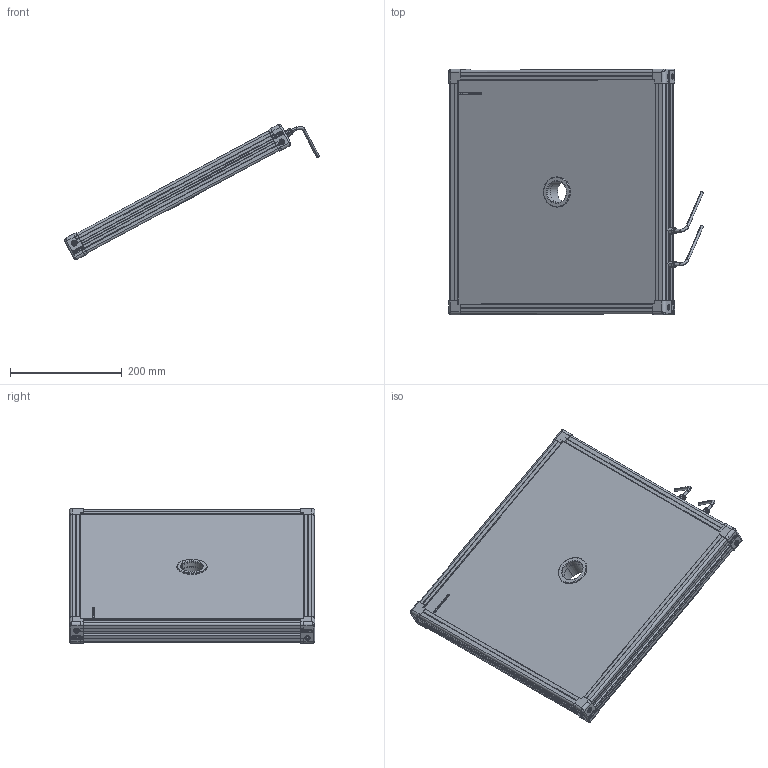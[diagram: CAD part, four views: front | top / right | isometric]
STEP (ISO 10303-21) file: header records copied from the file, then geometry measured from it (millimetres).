
FILE_DESCRIPTION (( 'STEP AP214' ), '1' );
FILE_NAME ('EFFI-FD-400-400-ZZZ-2M12.STEP', '2021-06-21T12:17:04', ( '' ), ( '' ), 'SwSTEP 2.0', 'SolidWorks 2021', '' );
FILE_SCHEMA (( 'AUTOMOTIVE_DESIGN' ));
Length unit declared in the file: millimetre
Products named in the file (13): profile Y_PERCE; 000629; 000590; EFFI-FD-400-400-ZZZ-2M12; assemblage Ø39; profile X_PERCE; 001036; 001035; petite joue; petite joue + vis; cordon_Avec cable; Pièce13^EFFI-FD-XXX-YYY-ZZZ (2 connecteurs) Ø39
Assembly tree (20 placements, depth 3):
  EFFI-FD-400-400-ZZZ-2M12
    profile X_PERCE  x2
    profile Y_PERCE
    profile Y_PERCE
    Pièce13^EFFI-FD-XXX-YYY-ZZZ (2 connecteurs) Ø39
    petite joue + vis  x4
      petite joue
      000629
    assemblage Ø39
      001036
      000590  x3
      001035
    cordon_Avec cable  x2
Bounding box: 454.52 x 439 x 241.06 mm (x, y, z)
Volume: 6621144.7 mm3; surface area: 670650.4 mm2
Topology: 22 solids, 34 shells, 3994 faces, 10617 edges, 6981 vertices
Faces by surface type: plane 2487, cylinder 712, bspline 603, cone 154, torus 38
Entity records: 55536 total; most frequent: CARTESIAN_POINT 22503, ORIENTED_EDGE 6878, DIRECTION 5582, EDGE_CURVE 3443, VECTOR 2438, LINE 2438, VERTEX_POINT 2272, AXIS2_PLACEMENT_3D 1572
